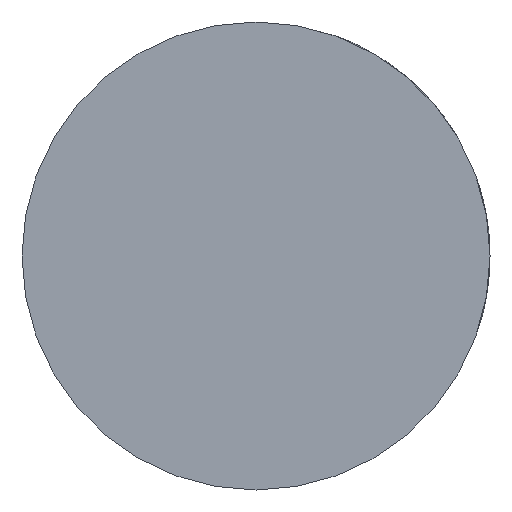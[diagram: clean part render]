
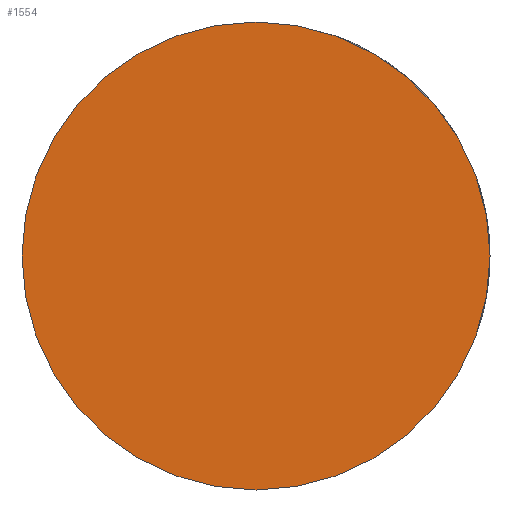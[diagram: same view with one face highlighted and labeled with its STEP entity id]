
A CAD part, front view. The second image highlights one B-rep face of the part: STEP entity #1554.
In plain terms, the highlighted planar face has unit normal (0, -1, 0).
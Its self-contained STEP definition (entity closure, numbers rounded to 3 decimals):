
#226 = CARTESIAN_POINT ( 'NONE',  ( 0., 0., 11. ) ) ;
#370 = EDGE_CURVE ( 'NONE', #3407, #1033, #879, .T. ) ;
#655 = DIRECTION ( 'NONE',  ( 0., 0., 1. ) ) ;
#774 = ORIENTED_EDGE ( 'NONE', *, *, #370, .F. ) ;
#826 = DIRECTION ( 'NONE',  ( 0., 0., 1. ) ) ;
#879 = CIRCLE ( 'NONE', #1894, 11. ) ;
#969 = EDGE_LOOP ( 'NONE', ( #3837, #774 ) ) ;
#1033 = VERTEX_POINT ( 'NONE', #1543 ) ;
#1136 = CIRCLE ( 'NONE', #1197, 11. ) ;
#1197 = AXIS2_PLACEMENT_3D ( 'NONE', #2398, #2106, #655 ) ;
#1543 = CARTESIAN_POINT ( 'NONE',  ( 0., 0., -11. ) ) ;
#1554 = ADVANCED_FACE ( 'NONE', ( #2364 ), #3261, .F. ) ;
#1894 = AXIS2_PLACEMENT_3D ( 'NONE', #2320, #3563, #826 ) ;
#2106 = DIRECTION ( 'NONE',  ( 0., 1., 0. ) ) ;
#2140 = AXIS2_PLACEMENT_3D ( 'NONE', #3887, #2998, #2961 ) ;
#2320 = CARTESIAN_POINT ( 'NONE',  ( 0., 0., 0. ) ) ;
#2364 = FACE_OUTER_BOUND ( 'NONE', #969, .T. ) ;
#2398 = CARTESIAN_POINT ( 'NONE',  ( 0., 0., 0. ) ) ;
#2961 = DIRECTION ( 'NONE',  ( 0., 0., 1. ) ) ;
#2998 = DIRECTION ( 'NONE',  ( 0., 1., 0. ) ) ;
#3261 = PLANE ( 'NONE',  #2140 ) ;
#3407 = VERTEX_POINT ( 'NONE', #226 ) ;
#3563 = DIRECTION ( 'NONE',  ( 0., 1., 0. ) ) ;
#3791 = EDGE_CURVE ( 'NONE', #1033, #3407, #1136, .T. ) ;
#3837 = ORIENTED_EDGE ( 'NONE', *, *, #3791, .F. ) ;
#3887 = CARTESIAN_POINT ( 'NONE',  ( 0., 0., 0. ) ) ;
